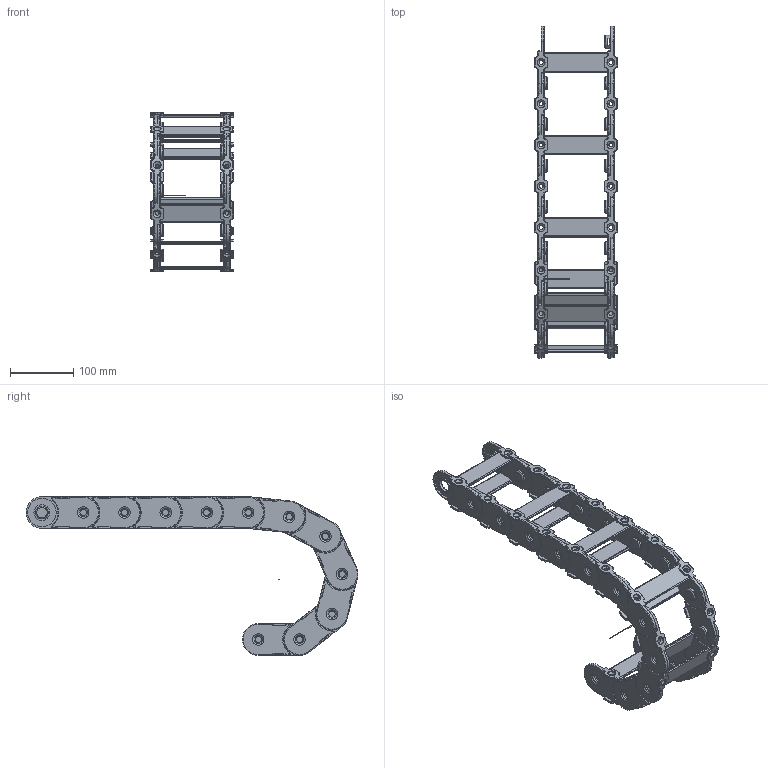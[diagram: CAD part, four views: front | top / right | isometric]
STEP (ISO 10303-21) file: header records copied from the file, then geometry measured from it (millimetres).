
FILE_DESCRIPTION((''),'2;1');
FILE_NAME('C:\Uebbing\TRACE PARTS\PKK 220\PKK 220 vereinfacht.stp','2013-05-02T08:29:06',('Uebbing'),(''),'Autodesk Inventor 10','Autodesk Inventor 10','');
FILE_SCHEMA(('AUTOMOTIVE_DESIGN { 1 0 10303 214 1 1 1 1 }'));
Length unit declared in the file: millimetre
Products named in the file (6): PKK 220 PARAMETRISCH; Achse; PKK 220 Glied ohne Steg vereinfacht; PKK 220 Lasche vereinfacht; PKK 220 Glied vereinfacht; 22 Steg vereinfacht
Assembly tree (18 placements, depth 3):
  PKK 220 PARAMETRISCH
    Achse
    PKK 220 Glied ohne Steg vereinfacht  x5
      PKK 220 Lasche vereinfacht
    PKK 220 Glied vereinfacht  x6
      PKK 220 Lasche vereinfacht
      22 Steg vereinfacht
Bounding box: 130 x 523.06 x 250 mm (x, y, z)
Volume: 732239.2 mm3; surface area: 440926.3 mm2
Topology: 35 solids, 35 shells, 2587 faces, 6188 edges, 3847 vertices
Faces by surface type: cylinder 1215, plane 844, bspline 352, torus 154, cone 22
Full cylindrical faces by diameter (mm): 1 x1, 6.3 x22, 12.4 x22, 14 x22, 20.1 x22, 20.309 x22, 25 x44, 45 x44
Entity records: 4241 total; most frequent: CARTESIAN_POINT 1018, DIRECTION 673, ORIENTED_EDGE 586, EDGE_CURVE 293, AXIS2_PLACEMENT_3D 250, VERTEX_POINT 194, VECTOR 173, LINE 173
